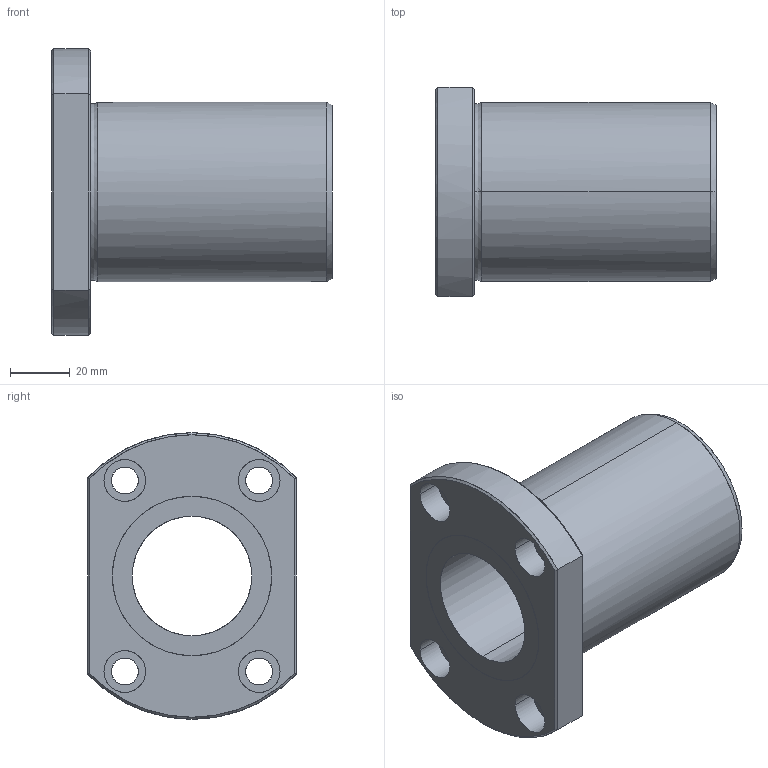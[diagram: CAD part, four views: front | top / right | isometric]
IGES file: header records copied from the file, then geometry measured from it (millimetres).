
Global section: file name: No Iges File Name specified; native system: AutoDesk Inventor R11.0; preprocessor: AutoDesk Inventor Iges Exporter R11.0; author: No Author specified; organization: No Organization specified; date: 20170921.131559; units: millimetre
Bounding box: 94 x 70 x 96 mm (x, y, z)
Surface area: 41659.6 mm2 (no closed solid volume)
Topology: 0 solids, 0 shells, 50 faces, 338 edges, 338 vertices
Faces by surface type: bspline 50
